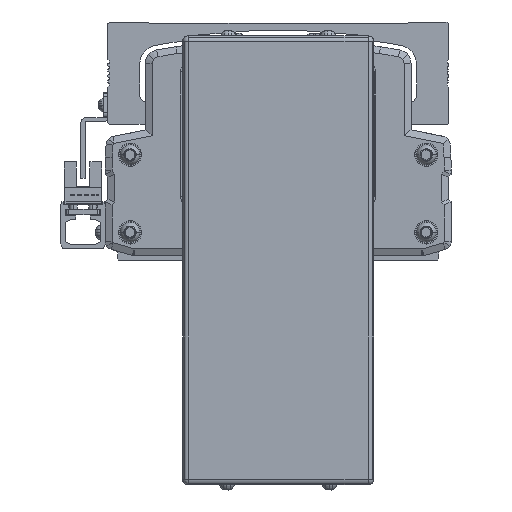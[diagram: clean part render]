
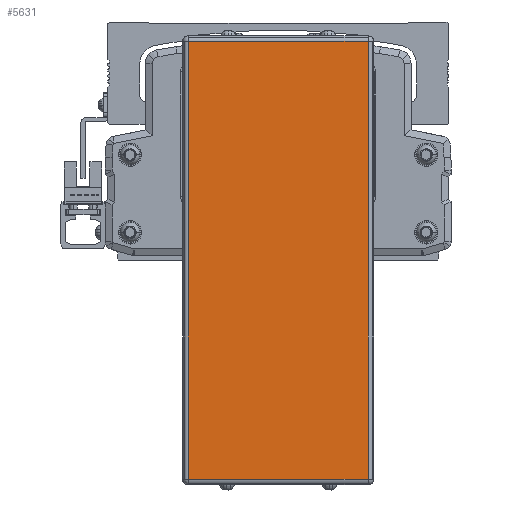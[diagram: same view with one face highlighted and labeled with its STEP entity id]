
A CAD part, front view. The second image highlights one B-rep face of the part: STEP entity #5631.
In plain terms, the highlighted planar face has unit normal (0, -1, 0).
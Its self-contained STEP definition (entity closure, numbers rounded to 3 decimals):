
#5631=ADVANCED_FACE('',(#12473),#12474,.T.);
#12473=FACE_OUTER_BOUND('',#21476,.T.);
#12474=PLANE('',#21477);
#21476=EDGE_LOOP('',(#38557,#38558,#38559,#38560));
#21477=AXIS2_PLACEMENT_3D('',#38561,#38562,#38563);
#38557=ORIENTED_EDGE('',*,*,#56546,.F.);
#38558=ORIENTED_EDGE('',*,*,#51007,.F.);
#38559=ORIENTED_EDGE('',*,*,#56427,.F.);
#38560=ORIENTED_EDGE('',*,*,#56259,.F.);
#38561=CARTESIAN_POINT('',(-299.996,-163.778,-49.1));
#38562=DIRECTION('',(0.,-1.0,0.));
#38563=DIRECTION('',(1.0,0.,0.));
#51007=EDGE_CURVE('',#61043,#61045,#61046,.T.);
#56259=EDGE_CURVE('',#59553,#64785,#69399,.T.);
#56427=EDGE_CURVE('',#64785,#61043,#69617,.T.);
#56546=EDGE_CURVE('',#61045,#59553,#69774,.T.);
#59553=VERTEX_POINT('',#73333);
#61043=VERTEX_POINT('',#75459);
#61045=VERTEX_POINT('',#75461);
#61046=LINE('',#75462,#75463);
#64785=VERTEX_POINT('',#80945);
#69399=LINE('',#87659,#87660);
#69617=LINE('',#88032,#88033);
#69774=LINE('',#88252,#88253);
#73333=CARTESIAN_POINT('',(-267.496,-163.778,-128.2));
#75459=CARTESIAN_POINT('',(-332.496,-163.778,30.));
#75461=CARTESIAN_POINT('',(-267.496,-163.778,30.));
#75462=CARTESIAN_POINT('',(-299.996,-163.778,30.));
#75463=VECTOR('',#94047,10.0);
#80945=CARTESIAN_POINT('',(-332.496,-163.778,-128.2));
#87659=CARTESIAN_POINT('',(-299.996,-163.778,-128.2));
#87660=VECTOR('',#100594,10.0);
#88032=CARTESIAN_POINT('',(-332.496,-163.778,-49.1));
#88033=VECTOR('',#100792,10.0);
#88252=CARTESIAN_POINT('',(-267.496,-163.778,-49.1));
#88253=VECTOR('',#100928,10.0);
#94047=DIRECTION('',(1.0,0.,0.));
#100594=DIRECTION('',(-1.0,0.,0.));
#100792=DIRECTION('',(0.0,0.,1.0));
#100928=DIRECTION('',(0.0,0.,-1.0));
